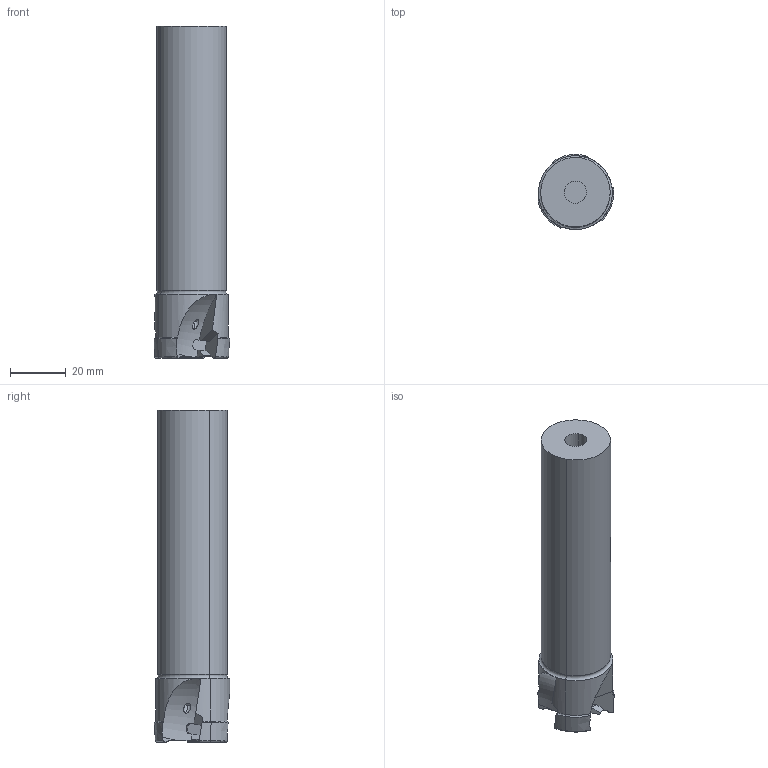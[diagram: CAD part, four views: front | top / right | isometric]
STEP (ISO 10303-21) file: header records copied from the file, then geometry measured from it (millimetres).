
FILE_DESCRIPTION(('CATIA V5 STEP','CAx-IF Rec.Pracs.--- Model Styling and Organization---1.2---2011-12-15'),'2;1');
FILE_NAME('N:\data\isr\design\special1\users\EVA_U\Requests\NPA\3139411_HM390 ETP D28-3-C25-10\3139411_HM390 ETP D28-3-C25-10.stp','2016-07-06T05:10:39+00:00',('none'),('none'),'CATIA Version 5 Release 21 SP 5 (IN-10)','CATIA V5 STEP AP214','none');
FILE_SCHEMA(('AUTOMOTIVE_DESIGN { 1 0 10303 214 1 1 1 1 }'));
Length unit declared in the file: millimetre
Products named in the file (1): HM390 ETP D28-3-C25-10
Bounding box: 27.17 x 27.08 x 119.4 mm (x, y, z)
Volume: 55886 mm3; surface area: 11194 mm2
Topology: 1 solids, 1 shells, 89 faces, 240 edges, 157 vertices
Faces by surface type: plane 39, cylinder 21, torus 18, cone 8, revolution 3
Entity records: 2931 total; most frequent: CARTESIAN_POINT 959, ORIENTED_EDGE 480, DIRECTION 274, EDGE_CURVE 240, VERTEX_POINT 157, AXIS2_PLACEMENT_3D 119, B_SPLINE_CURVE_WITH_KNOTS 100, EDGE_LOOP 93
